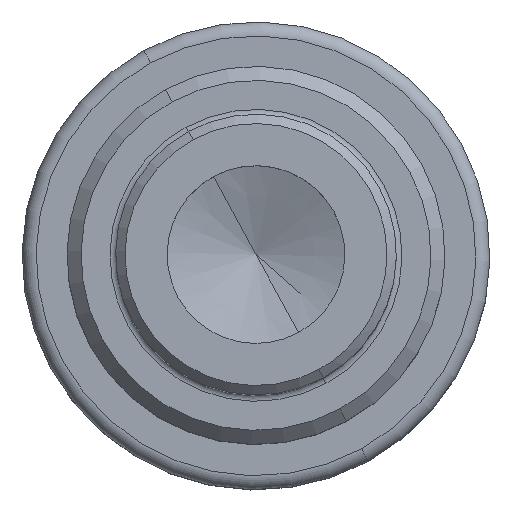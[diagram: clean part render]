
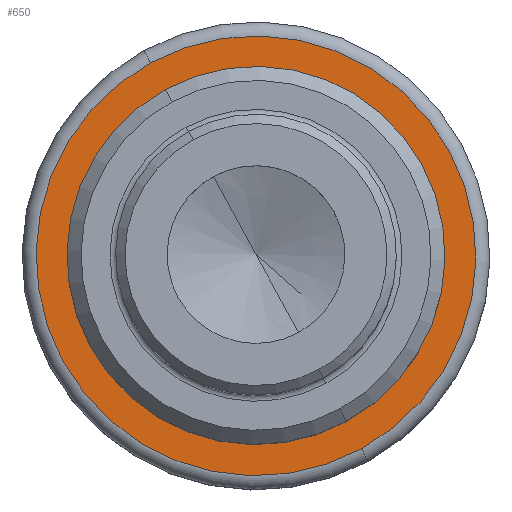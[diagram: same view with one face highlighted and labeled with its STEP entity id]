
A CAD part, top view. The second image highlights one B-rep face of the part: STEP entity #650.
In plain terms, the highlighted planar face has unit normal (0, 0, 1).
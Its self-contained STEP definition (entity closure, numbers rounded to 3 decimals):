
#594=AXIS2_PLACEMENT_3D('Circle Axis2P3D',#592,#593,$) ;
#613=AXIS2_PLACEMENT_3D('Circle Axis2P3D',#611,#612,$) ;
#626=AXIS2_PLACEMENT_3D('Plane Axis2P3D',#623,#624,#625) ;
#634=AXIS2_PLACEMENT_3D('Circle Axis2P3D',#632,#633,$) ;
#643=AXIS2_PLACEMENT_3D('Circle Axis2P3D',#641,#642,$) ;
#589=CARTESIAN_POINT('Vertex',(-11.267,20.623,-79.5)) ;
#592=CARTESIAN_POINT('Axis2P3D Location',(0.,0.,-79.5)) ;
#596=CARTESIAN_POINT('Vertex',(11.267,-20.623,-79.5)) ;
#611=CARTESIAN_POINT('Axis2P3D Location',(0.,0.,-79.5)) ;
#623=CARTESIAN_POINT('Axis2P3D Location',(0.,0.,-79.5)) ;
#632=CARTESIAN_POINT('Axis2P3D Location',(0.,0.,-79.5)) ;
#636=CARTESIAN_POINT('Vertex',(-9.589,-17.552,-79.5)) ;
#638=CARTESIAN_POINT('Vertex',(9.589,17.552,-79.5)) ;
#641=CARTESIAN_POINT('Axis2P3D Location',(0.,0.,-79.5)) ;
#593=DIRECTION('Axis2P3D Direction',(0.,0.,1.)) ;
#612=DIRECTION('Axis2P3D Direction',(0.,0.,1.)) ;
#624=DIRECTION('Axis2P3D Direction',(0.,0.,1.)) ;
#625=DIRECTION('Axis2P3D XDirection',(1.,0.,0.)) ;
#633=DIRECTION('Axis2P3D Direction',(0.,0.,1.)) ;
#642=DIRECTION('Axis2P3D Direction',(0.,0.,1.)) ;
#629=ORIENTED_EDGE('',*,*,#615,.T.) ;
#630=ORIENTED_EDGE('',*,*,#598,.T.) ;
#647=ORIENTED_EDGE('',*,*,#640,.F.) ;
#648=ORIENTED_EDGE('',*,*,#645,.F.) ;
#649=FACE_BOUND('',#646,.T.) ;
#650=ADVANCED_FACE('NOCUT',(#631,#649),#627,.T.) ;
#595=CIRCLE('generated circle',#594,23.5) ;
#614=CIRCLE('generated circle',#613,23.5) ;
#635=CIRCLE('generated circle',#634,20.) ;
#644=CIRCLE('generated circle',#643,20.) ;
#598=EDGE_CURVE('',#597,#590,#595,.T.) ;
#615=EDGE_CURVE('',#590,#597,#614,.T.) ;
#640=EDGE_CURVE('',#637,#639,#635,.T.) ;
#645=EDGE_CURVE('',#639,#637,#644,.T.) ;
#628=EDGE_LOOP('',(#629,#630)) ;
#646=EDGE_LOOP('',(#647,#648)) ;
#631=FACE_OUTER_BOUND('',#628,.T.) ;
#627=PLANE('',#626) ;
#590=VERTEX_POINT('',#589) ;
#597=VERTEX_POINT('',#596) ;
#637=VERTEX_POINT('',#636) ;
#639=VERTEX_POINT('',#638) ;
